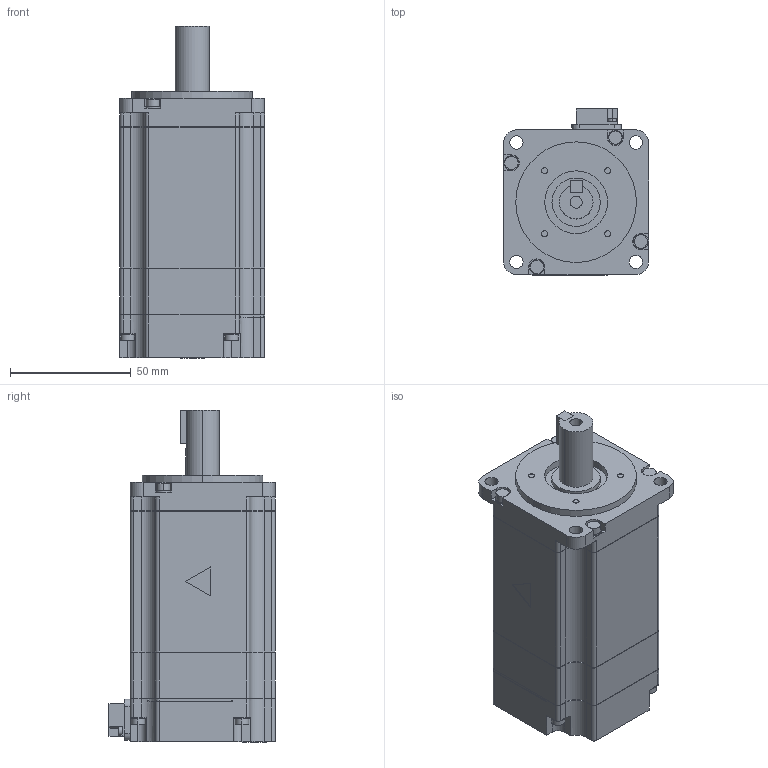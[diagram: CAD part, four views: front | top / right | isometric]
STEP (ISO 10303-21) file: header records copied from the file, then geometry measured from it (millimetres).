
FILE_DESCRIPTION (( 'STEP AP203' ), '1' );
FILE_NAME ('sgm7a_06a_a61.STEP', '2015-12-21T22:34:50', ( '匠エンジニアリング山之内' ), ( 'TAKUMI-Engniaring' ), 'SwSTEP 2.0', 'SolidWorks 2006303', '' );
FILE_SCHEMA (( 'CONFIG_CONTROL_DESIGN' ));
Length unit declared in the file: millimetre
Products named in the file (3): sgm7a_06a_a61_key; sgm7a_06a_a61_base; sgm7a_06a_a61
Assembly tree (2 placements, depth 2):
  sgm7a_06a_a61
    sgm7a_06a_a61_key
    sgm7a_06a_a61_base
Bounding box: 60.1 x 68.8 x 137.6 mm (x, y, z)
Volume: 352376.4 mm3; surface area: 37486.7 mm2
Topology: 2 solids, 2 shells, 424 faces, 1111 edges, 738 vertices
Faces by surface type: plane 235, cylinder 189
Entity records: 13497 total; most frequent: DIRECTION 2352, CARTESIAN_POINT 2324, ORIENTED_EDGE 2222, EDGE_CURVE 1111, AXIS2_PLACEMENT_3D 816, VERTEX_POINT 738, LINE 720, VECTOR 720
